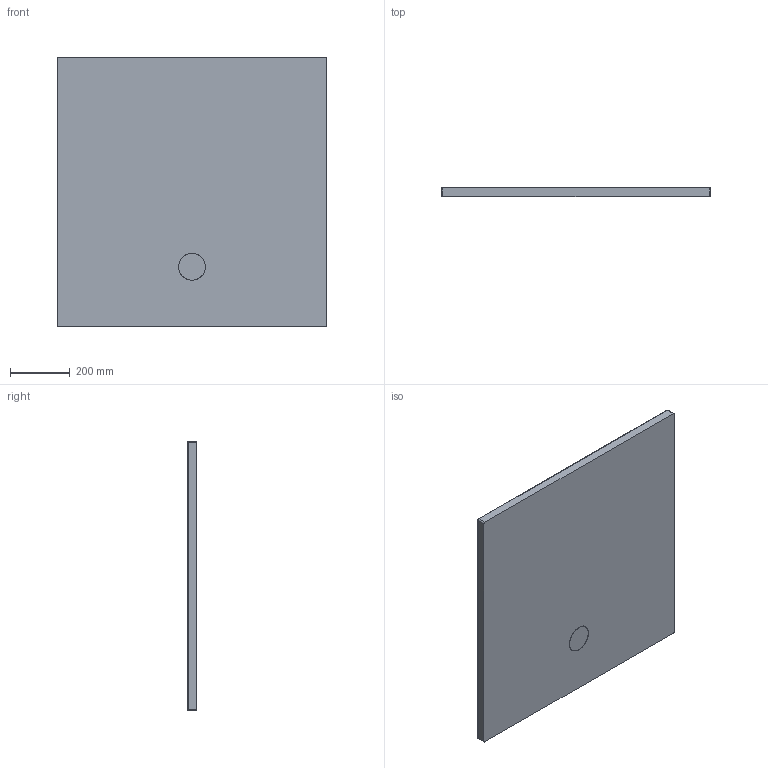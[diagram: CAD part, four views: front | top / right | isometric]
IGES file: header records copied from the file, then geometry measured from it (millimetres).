
Start section: SolidWorks IGES file using analytic representation for surfaces
Global section: file name: D:\Users\M.Szymanski\Desktop\Brodziki\Nias\B_M_NIAS_90x90x1,5.IGS; native system: SolidWorks 2011; preprocessor: SolidWorks 2011; author: M.Szymanski; date: 180222.141235; units: millimetre
Bounding box: 900 x 30 x 900 mm (x, y, z)
Surface area: 1749316.9 mm2 (no closed solid volume)
Topology: 0 solids, 0 shells, 45 faces, 658 edges, 657 vertices
Faces by surface type: bspline 25, revolution 20
